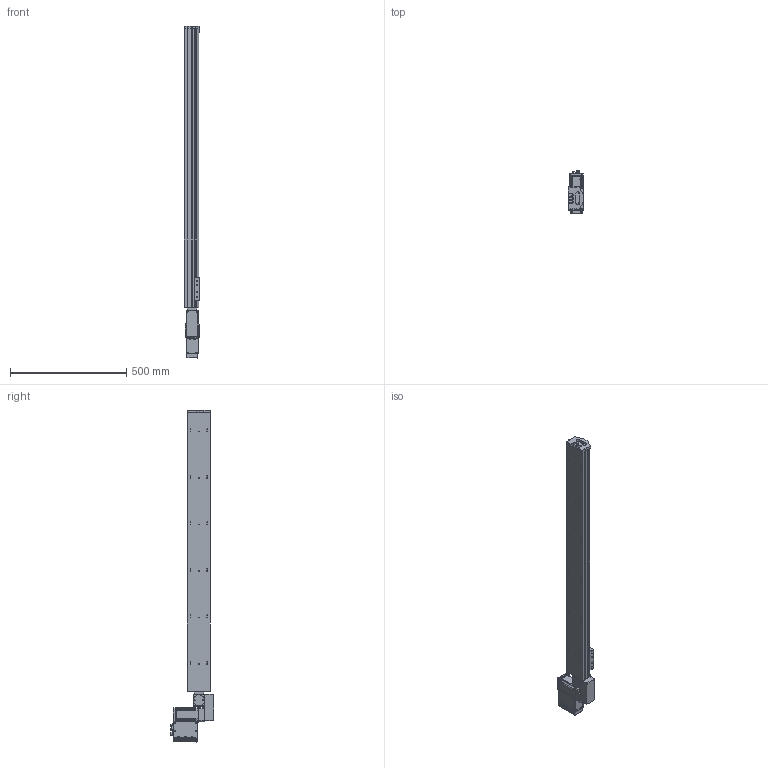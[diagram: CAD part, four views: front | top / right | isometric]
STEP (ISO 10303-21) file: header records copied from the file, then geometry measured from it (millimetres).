
FILE_DESCRIPTION (( 'STEP AP203' ), '1' );
FILE_NAME ('S10 TBN LH S1200.STEP', '2012-06-18T09:40:24', ( 'Conseil Régional Haute-Normandie' ), ( 'Conseil Régional Haute-Normandie' ), 'SwSTEP 2.0', 'SolidWorks 2010', '' );
FILE_SCHEMA (( 'CONFIG_CONTROL_DESIGN' ));
Length unit declared in the file: millimetre
Products named in the file (25): Colonnette_3; Moteur 60BLDC90A_3; BU45 Carte d''axe A11_5; T_X2_00F4_X0_le lat_X2_00E9_X0_rale_5; Sub D 9cts 90_X2_00B_X0__3; plaque de bout s10_Default; Plaque racord_Default; renvoi LH_Default; S10 TBN LH S1200; Assem1_7; T_X2_00F4_X0_le contre le moteur_5; BU41 Carte Alimentation P05_3; Couvercle_3; T_X2_00F4_X0_le fond_3; Connecteur rond D10 3cts_5; Connecteur rond D12 4cts_5; Radiateur profil_X2_00E9_X0_ 100x25_3; Colonnette ronde_3; T_X2_00F4_X0_le Arri_X2_00E8_X0_re_5; Vis TF 3 torkx_1_1; cache t皻e axe_Default; embout; palette tbn; axe 1200; cache t皻e_Default
Assembly tree (48 placements, depth 3):
  S10 TBN LH S1200
    axe 1200
    plaque de bout s10_Default
    Assem1_7
      T_X2_00F4_X0_le lat_X2_00E9_X0_rale_5  x2
      Vis TF 3 torkx_1_1  x21
      BU45 Carte d''axe A11_5
      T_X2_00F4_X0_le contre le moteur_5
      Radiateur profil_X2_00E9_X0_ 100x25_3
      Colonnette_3  x2
      Connecteur rond D12 4cts_5
      T_X2_00F4_X0_le Arri_X2_00E8_X0_re_5
      Colonnette ronde_3
      Couvercle_3
      Moteur 60BLDC90A_3
      Connecteur rond D10 3cts_5  x2
      T_X2_00F4_X0_le fond_3
      BU41 Carte Alimentation P05_3
      Sub D 9cts 90_X2_00B_X0__3
    cache t皻e_Default  x2
    Plaque racord_Default
    renvoi LH_Default
    cache t皻e axe_Default
    palette tbn
    embout
Bounding box: 66.75 x 186.1 x 1428.5 mm (x, y, z)
Volume: 7102499.4 mm3; surface area: 895023.2 mm2
Topology: 47 solids, 47 shells, 1959 faces, 4994 edges, 3247 vertices
Faces by surface type: cylinder 918, plane 872, cone 154, bspline 12, torus 3
Entity records: 44199 total; most frequent: CARTESIAN_POINT 8012, DIRECTION 7209, ORIENTED_EDGE 6568, EDGE_CURVE 3284, AXIS2_PLACEMENT_3D 2683, VERTEX_POINT 2151, LINE 1843, VECTOR 1843
